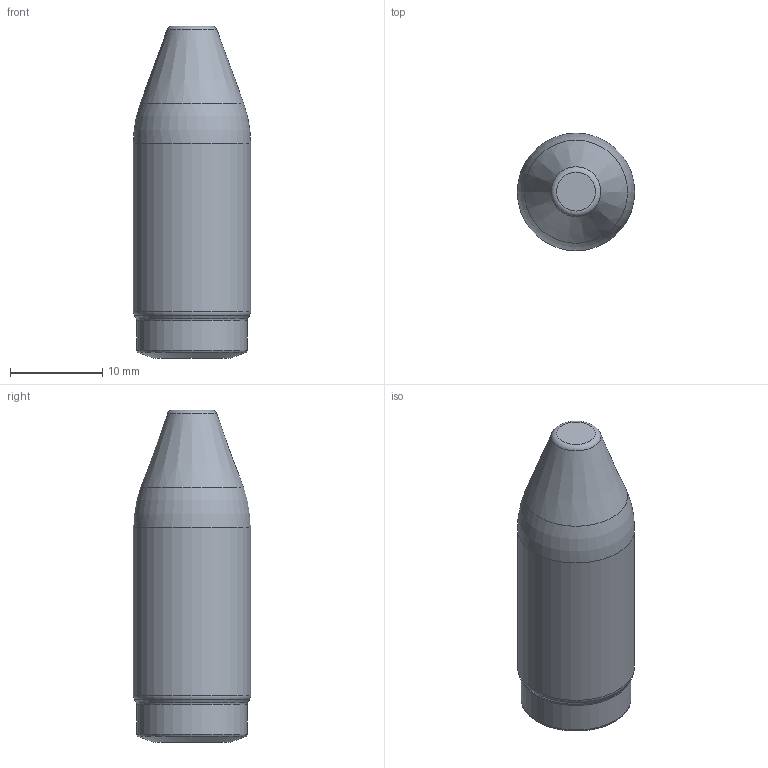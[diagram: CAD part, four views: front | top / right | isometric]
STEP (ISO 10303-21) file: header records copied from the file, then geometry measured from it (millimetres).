
FILE_DESCRIPTION (( 'STEP AP214' ), '1' );
FILE_NAME ('P-.500-.100-BT.STEP', '2023-10-06T14:35:29', ( '' ), ( '' ), 'SwSTEP 2.0', 'SolidWorks 2020', '' );
FILE_SCHEMA (( 'AUTOMOTIVE_DESIGN' ));
Length unit declared in the file: inch
Products named in the file (1): P-.500-.100-BT
Bounding box: 12.7 x 12.7 x 35.94 mm (x, y, z)
Volume: 3344.8 mm3; surface area: 1724.6 mm2
Topology: 1 solids, 1 shells, 16 faces, 34 edges, 20 vertices
Faces by surface type: torus 5, cone 5, cylinder 4, plane 2
Full cylindrical faces by diameter (mm): 5.105 x1, 6.35 x1, 11.938 x1, 12.7 x1
Entity records: 354 total; most frequent: DIRECTION 64, CARTESIAN_POINT 47, AXIS2_PLACEMENT_3D 32, ORIENTED_EDGE 30, EDGE_LOOP 30, FACE_OUTER_BOUND 25, ADVANCED_FACE 16, CIRCLE 15
